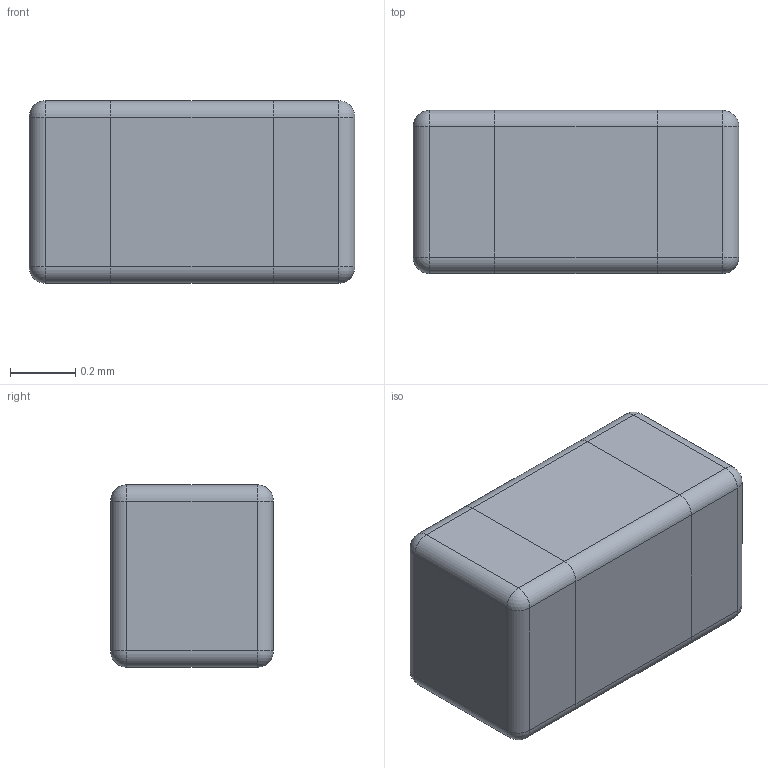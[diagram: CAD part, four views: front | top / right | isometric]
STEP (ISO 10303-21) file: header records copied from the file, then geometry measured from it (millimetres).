
FILE_DESCRIPTION (( 'STEP AP214' ), '1' );
FILE_NAME ( 'CAPC100X50X56L25.STP', '2017-10-24T09:32:23', ( '' ), ( '' ), '', '©2017 PCB Libraries, Inc.', '' );
FILE_SCHEMA (( 'AUTOMOTIVE_DESIGN' ));
Length unit declared in the file: millimetre
Products named in the file (1): CAPC100X50X56L25
Bounding box: 1 x 0.5 x 0.56 mm (x, y, z)
Volume: 0.3 mm3; surface area: 3.6 mm2
Topology: 3 solids, 3 shells, 46 faces, 104 edges, 56 vertices
Faces by surface type: cylinder 20, plane 18, sphere 8
Entity records: 1394 total; most frequent: DIRECTION 230, CARTESIAN_POINT 199, ORIENTED_EDGE 192, EDGE_CURVE 96, AXIS2_PLACEMENT_3D 87, VERTEX_POINT 56, VECTOR 56, LINE 56
